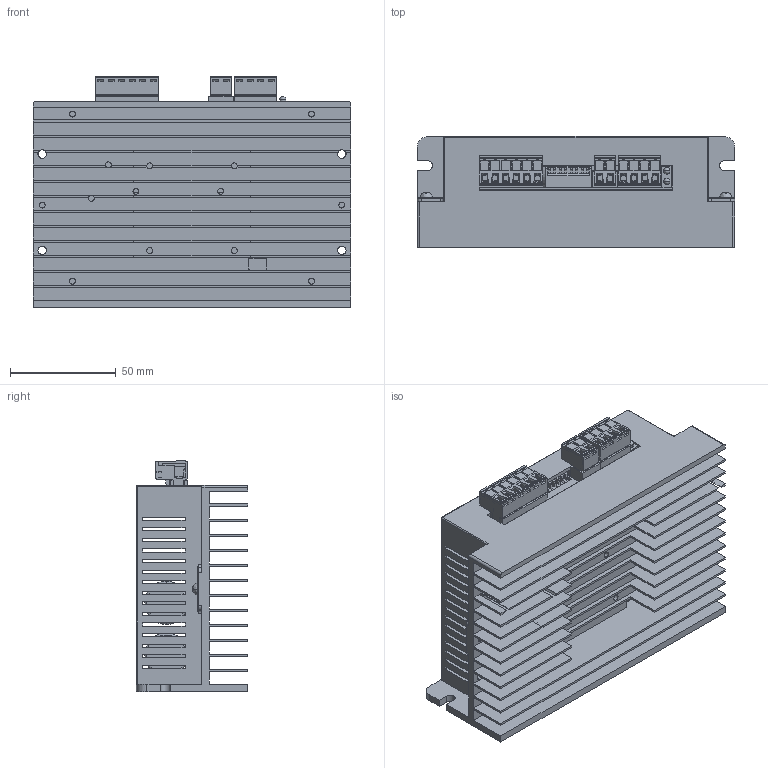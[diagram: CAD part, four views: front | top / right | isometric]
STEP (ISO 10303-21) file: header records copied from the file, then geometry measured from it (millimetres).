
FILE_DESCRIPTION((''),'2;1');
FILE_NAME('RT-R85','2025-04-16T15:01:34',('ruiwe'),(''),'CREO PARAMETRIC BY PTC INC, 2021063','CREO PARAMETRIC BY PTC INC, 2021063','');
FILE_SCHEMA(('CONFIG_CONTROL_DESIGN','SHAPE_APPEARANCE_LAYERS_GROUPS'));
Products named in the file (1): RT-R85
Bounding box: 150 x 52.61 x 109.33 mm (x, y, z)
Volume: 202291.3 mm3; surface area: 191167.8 mm2
Topology: 13 solids, 58 shells, 4758 faces, 13515 edges, 8895 vertices
Faces by surface type: plane 3038, cylinder 949, bspline 343, torus 208, cone 204, sphere 16
Entity records: 188764 total; most frequent: CARTESIAN_POINT 45201, ORIENTED_EDGE 26168, DIRECTION 22976, EDGE_CURVE 13503, VECTOR 9528, LINE 9528, VERTEX_POINT 8933, AXIS2_PLACEMENT_3D 6724
